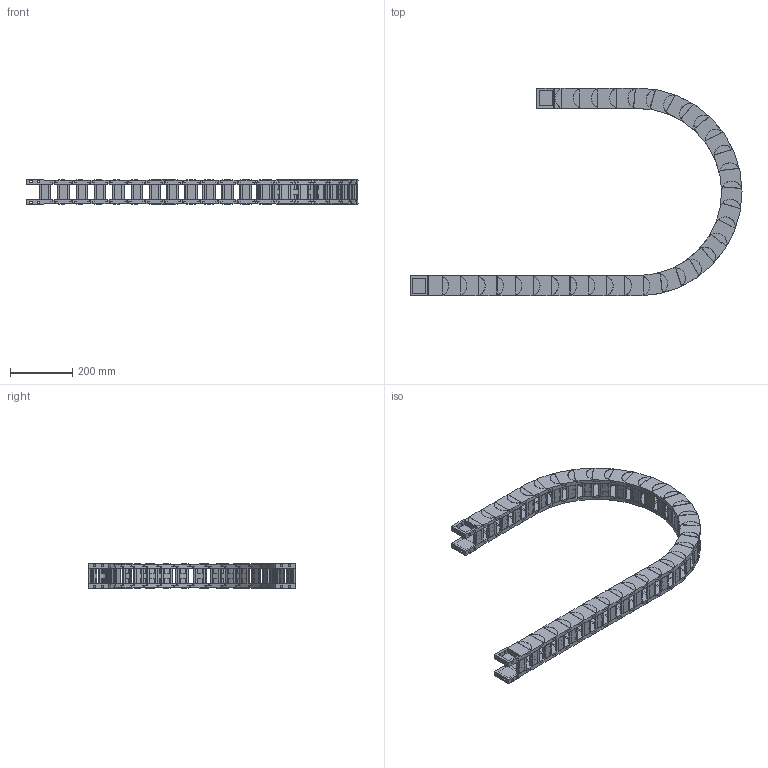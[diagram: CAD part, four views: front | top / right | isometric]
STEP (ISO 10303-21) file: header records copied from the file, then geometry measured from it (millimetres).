
FILE_DESCRIPTION((''),'2;1');
FILE_NAME('HD45-R300-ZPT_ASM','2022-06-20T19:20:07',('admin'),(''),'CREO PARAMETRIC BY PTC INC, 2021164','CREO PARAMETRIC BY PTC INC, 2021164','');
FILE_SCHEMA(('CONFIG_CONTROL_DESIGN','GEOMETRIC_VALIDATION_PROPERTIES_MIM'));
Length unit declared in the file: millimetre
Products named in the file (6): HD45-585; 45-500001; HD45_ASM; H45-T1-G; H45-T2-G; HD45-R300-ZPT_ASM
Assembly tree (37 placements, depth 3):
  HD45-R300-ZPT_ASM
    HD45_ASM  x31
      HD45-585
      45-500001
    H45-T1-G
    H45-T2-G
    45-500001  x2
Bounding box: 1062.69 x 664.97 x 83 mm (x, y, z)
Volume: 4595961.1 mm3; surface area: 1631883.5 mm2
Topology: 132 solids, 132 shells, 2550 faces, 6830 edges, 4680 vertices
Faces by surface type: plane 1676, cylinder 874
Entity records: 8762 total; most frequent: CARTESIAN_POINT 1414, DIRECTION 1404, ORIENTED_EDGE 1276, EDGE_CURVE 638, AXIS2_PLACEMENT_3D 491, VERTEX_POINT 432, VECTOR 422, LINE 422
